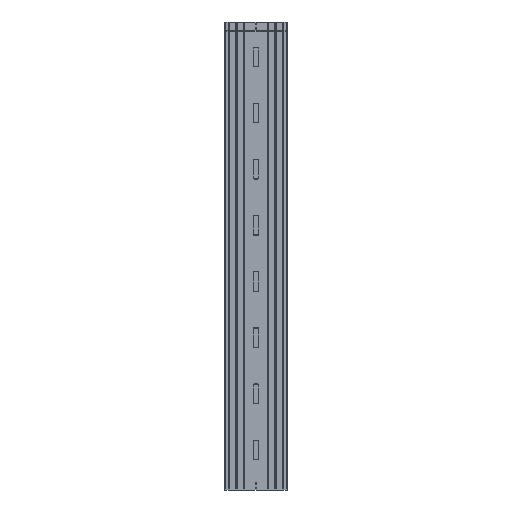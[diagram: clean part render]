
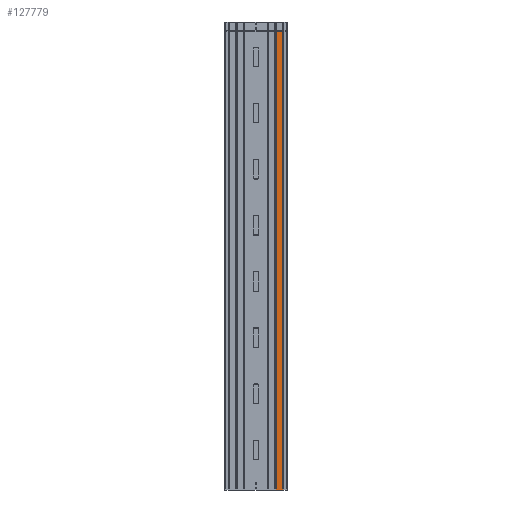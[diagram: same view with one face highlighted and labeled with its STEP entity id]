
A CAD part, front view. The second image highlights one B-rep face of the part: STEP entity #127779.
In plain terms, the highlighted planar face has unit normal (0, -1, 0).
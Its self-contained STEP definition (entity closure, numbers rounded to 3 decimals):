
#10448 = DIRECTION ( 'NONE',  ( 1., 0., 0. ) ) ;
#11412 = EDGE_CURVE ( 'NONE', #189629, #41984, #257060, .T. ) ;
#19959 = VERTEX_POINT ( 'NONE', #55323 ) ;
#23293 = DIRECTION ( 'NONE',  ( 0., 0., 1. ) ) ;
#23722 = ORIENTED_EDGE ( 'NONE', *, *, #260893, .F. ) ;
#36341 = VECTOR ( 'NONE', #23293, 1000. ) ;
#36530 = ORIENTED_EDGE ( 'NONE', *, *, #11412, .T. ) ;
#41984 = VERTEX_POINT ( 'NONE', #170183 ) ;
#51879 = CARTESIAN_POINT ( 'NONE',  ( 129.456, 0., -2941.5 ) ) ;
#55323 = CARTESIAN_POINT ( 'NONE',  ( 129.456, 0., 0. ) ) ;
#68774 = LINE ( 'NONE', #173630, #268395 ) ;
#76121 = DIRECTION ( 'NONE',  ( 0., -1., 0. ) ) ;
#87875 = ORIENTED_EDGE ( 'NONE', *, *, #195365, .T. ) ;
#103070 = VECTOR ( 'NONE', #327406, 1000. ) ;
#127779 = ADVANCED_FACE ( 'NONE', ( #182684 ), #179263, .T. ) ;
#159039 = VECTOR ( 'NONE', #293487, 1000. ) ;
#161193 = LINE ( 'NONE', #222439, #159039 ) ;
#170183 = CARTESIAN_POINT ( 'NONE',  ( 170.544, 0., 0. ) ) ;
#170964 = AXIS2_PLACEMENT_3D ( 'NONE', #309887, #76121, #260027 ) ;
#173630 = CARTESIAN_POINT ( 'NONE',  ( 129.456, 0., 0. ) ) ;
#179263 = PLANE ( 'NONE',  #170964 ) ;
#182684 = FACE_OUTER_BOUND ( 'NONE', #195584, .T. ) ;
#189629 = VERTEX_POINT ( 'NONE', #253569 ) ;
#195365 = EDGE_CURVE ( 'NONE', #295833, #189629, #243315, .T. ) ;
#195584 = EDGE_LOOP ( 'NONE', ( #306386, #23722, #87875, #36530 ) ) ;
#198771 = EDGE_CURVE ( 'NONE', #19959, #41984, #68774, .T. ) ;
#222439 = CARTESIAN_POINT ( 'NONE',  ( 129.456, 0., -2941.5 ) ) ;
#222579 = CARTESIAN_POINT ( 'NONE',  ( 129.456, 0., -2941.5 ) ) ;
#229590 = CARTESIAN_POINT ( 'NONE',  ( 170.544, 0., -2941.5 ) ) ;
#243315 = LINE ( 'NONE', #222579, #103070 ) ;
#253569 = CARTESIAN_POINT ( 'NONE',  ( 170.544, 0., -2941.5 ) ) ;
#257060 = LINE ( 'NONE', #229590, #36341 ) ;
#260027 = DIRECTION ( 'NONE',  ( 1., 0., 0. ) ) ;
#260893 = EDGE_CURVE ( 'NONE', #295833, #19959, #161193, .T. ) ;
#268395 = VECTOR ( 'NONE', #10448, 1000. ) ;
#293487 = DIRECTION ( 'NONE',  ( 0., 0., 1. ) ) ;
#295833 = VERTEX_POINT ( 'NONE', #51879 ) ;
#306386 = ORIENTED_EDGE ( 'NONE', *, *, #198771, .F. ) ;
#309887 = CARTESIAN_POINT ( 'NONE',  ( 129.456, 0., -2941.5 ) ) ;
#327406 = DIRECTION ( 'NONE',  ( 1., 0., 0. ) ) ;
